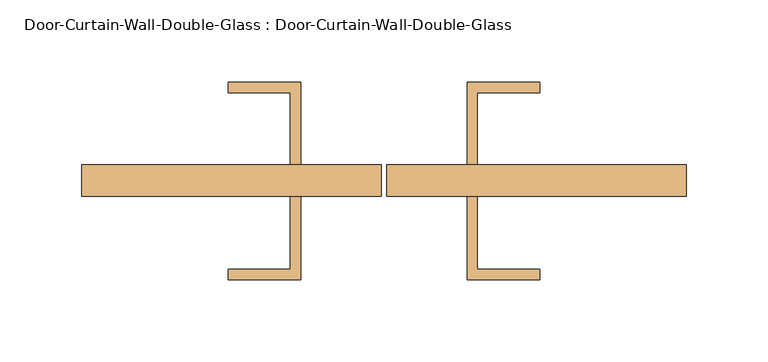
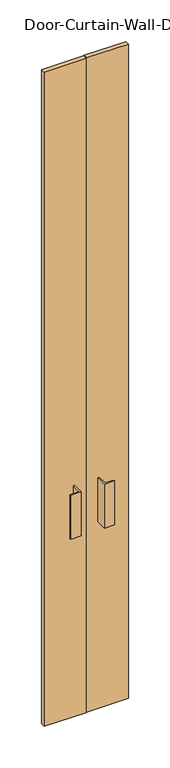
"""IFC4 building model written with IfcOpenShell, lengths in millimetres: door geometry, Door-Curtain-Wall-Double-Glass : Door-Curtain-Wall-Double-Glass."""

from ifc_helpers import new_model, si_unit, frame, origin, origin_with_axes, place, context, project, spatial, polyline, outline, extrude, source, transform, mapped, element, save


def door_curtain_wall_double_glass_door_curtain_wall_double_6fb70b25(model_context):
    return source(origin(), model_context, "Body", "SweptSolid", [
        extrude(outline(polyline([(-1.6143999, -31.75), (-1.6143999, -50.8), (-184.7084884, -50.8), (-184.7084884, -31.75), (-1.6143999, -31.75)])), origin_with_axes(), (0.0, 0.0, 1.0), 3022.6),
        extrude(outline(polyline([(184.7084884, -31.75), (184.7084884, -50.8), (1.5606001, -50.8), (1.5606001, -31.75), (184.7084884, -31.75)])), origin_with_axes(), (0.0, 0.0, 1.0), 3022.6),
        extrude(outline(polyline([(-50.8268999, -101.6), (-95.2768999, -101.6), (-95.2768999, -95.25), (-57.1768999, -95.25), (-57.1768999, -50.8), (-50.8268999, -50.8), (-50.8268999, -101.6)])), frame((0.0, 0.0, 863.6), z_axis=(0.0, 0.0, 1.0), x_axis=(1.0, 0.0, 0.0)), (0.0, 0.0, 1.0), 203.2),
        extrude(outline(polyline([(50.7731001, -101.6), (50.7731001, -50.8), (57.1231001, -50.8), (57.1231001, -95.25), (95.2231001, -95.25), (95.2231001, -101.6), (50.7731001, -101.6)])), frame((0.0, 0.0, 863.6), z_axis=(0.0, 0.0, 1.0), x_axis=(1.0, 0.0, 0.0)), (0.0, 0.0, 1.0), 203.2),
        extrude(outline(polyline([(-50.8268999, 19.05), (-50.8268999, -31.75), (-57.1768999, -31.75), (-57.1768999, 12.7), (-95.2768999, 12.7), (-95.2768999, 19.05), (-50.8268999, 19.05)])), frame((0.0, 0.0, 863.6), z_axis=(0.0, 0.0, 1.0), x_axis=(1.0, 0.0, 0.0)), (0.0, 0.0, 1.0), 203.2),
        extrude(outline(polyline([(50.7731001, 19.05), (95.2231001, 19.05), (95.2231001, 12.7), (57.1231001, 12.7), (57.1231001, -31.75), (50.7731001, -31.75), (50.7731001, 19.05)])), frame((0.0, 0.0, 863.6), z_axis=(0.0, 0.0, 1.0), x_axis=(1.0, 0.0, 0.0)), (0.0, 0.0, 1.0), 203.2),
    ])


if __name__ == "__main__":
    model = new_model("IFC4")
    model_context = context("Model", 3, world=origin())
    ifc_project = project(units=[si_unit("LENGTHUNIT", "METRE", prefix="MILLI")], contexts=[model_context])
    site = spatial("IfcSite", under=ifc_project)
    building = spatial("IfcBuilding", under=site)
    placement = place(None, origin())
    door_curtain_wall_double_glass_door_curtain_wall_double_shape = door_curtain_wall_double_glass_door_curtain_wall_double_6fb70b25(model_context)
    element("IfcDoor", 1, ObjectType="Door-Curtain-Wall-Double-Glass : Door-Curtain-Wall-Double-Glass", at=placement, inside=building, context=model_context, shape_type="MappedRepresentation", body=[
        mapped(door_curtain_wall_double_glass_door_curtain_wall_double_shape, transform((0.0, 0.0, 0.0), x_axis=(1.0, 0.0, 0.0), y_axis=(0.0, 1.0, 0.0), z_axis=(0.0, 0.0, 1.0))),
    ])
    save(model, "model.ifc")
